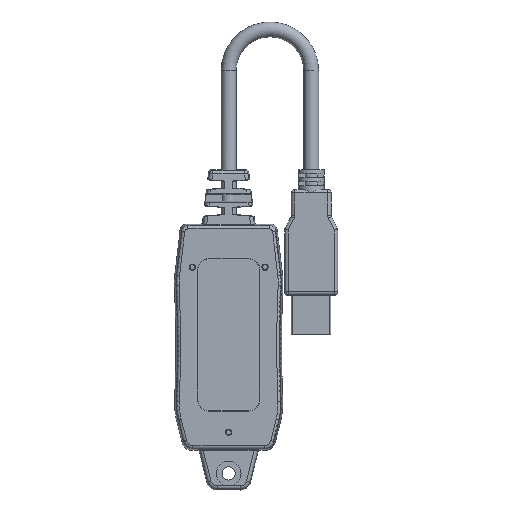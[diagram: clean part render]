
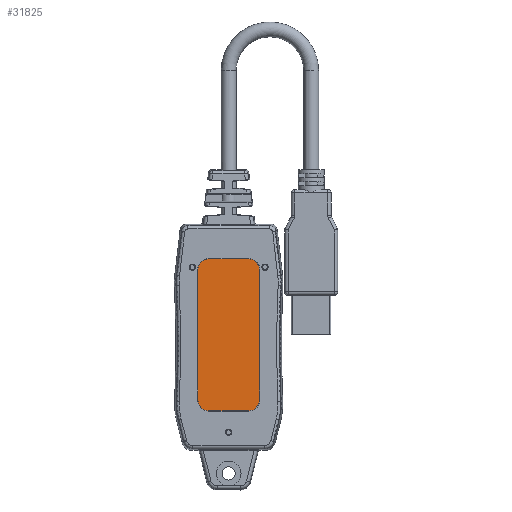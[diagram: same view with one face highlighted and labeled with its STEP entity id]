
A CAD part, front view. The second image highlights one B-rep face of the part: STEP entity #31825.
In plain terms, the highlighted planar face has unit normal (0, -1, 0).
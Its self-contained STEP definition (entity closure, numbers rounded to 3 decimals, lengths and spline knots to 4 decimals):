
#15770=DIRECTION('',(-1.,0.,0.));
#15771=VECTOR('',#15770,0.4764);
#15772=CARTESIAN_POINT('',(0.2382,-0.0866,
-0.7677));
#15773=LINE('',#15772,#15771);
#15791=DIRECTION('',(0.,0.,-1.));
#15792=VECTOR('',#15791,1.5551);
#15793=CARTESIAN_POINT('',(0.3661,-0.0866,
0.9154));
#15794=LINE('',#15793,#15792);
#15812=DIRECTION('',(1.,0.,0.));
#15813=VECTOR('',#15812,0.4764);
#15814=CARTESIAN_POINT('',(-0.2382,-0.0866,
1.0433));
#15815=LINE('',#15814,#15813);
#15833=DIRECTION('',(0.,0.,1.));
#15834=VECTOR('',#15833,1.5551);
#15835=CARTESIAN_POINT('',(-0.3661,-0.0866,
-0.6398));
#15836=LINE('',#15835,#15834);
#15840=CARTESIAN_POINT('',(0.2382,-0.0866,
-0.6398));
#15841=DIRECTION('',(0.,-1.,0.));
#15842=DIRECTION('',(0.,0.,-1.));
#15843=AXIS2_PLACEMENT_3D('',#15840,#15841,#15842);
#15848=CARTESIAN_POINT('',(-0.2382,-0.0866,
-0.6398));
#15849=DIRECTION('',(0.,-1.,0.));
#15850=DIRECTION('',(-1.,0.,0.));
#15851=AXIS2_PLACEMENT_3D('',#15848,#15849,#15850);
#15856=CARTESIAN_POINT('',(-0.2382,-0.0866,
0.9154));
#15857=DIRECTION('',(0.,-1.,0.));
#15858=DIRECTION('',(0.,0.,1.));
#15859=AXIS2_PLACEMENT_3D('',#15856,#15857,#15858);
#15864=CARTESIAN_POINT('',(0.2382,-0.0866,
0.9154));
#15865=DIRECTION('',(0.,-1.,0.));
#15866=DIRECTION('',(1.,0.,0.));
#15867=AXIS2_PLACEMENT_3D('',#15864,#15865,#15866);
#18259=CARTESIAN_POINT('',(0.2382,-0.0866,
-0.7677));
#18260=VERTEX_POINT('',#18259);
#18261=CARTESIAN_POINT('',(-0.2382,-0.0866,
-0.7677));
#18262=VERTEX_POINT('',#18261);
#18305=CARTESIAN_POINT('',(-0.3661,-0.0866,
-0.6398));
#18306=VERTEX_POINT('',#18305);
#18307=CARTESIAN_POINT('',(0.3661,-0.0866,
-0.6398));
#18308=VERTEX_POINT('',#18307);
#18364=CARTESIAN_POINT('',(-0.3661,-0.0866,
0.9154));
#18365=VERTEX_POINT('',#18364);
#18366=CARTESIAN_POINT('',(0.3661,-0.0866,
0.9154));
#18367=VERTEX_POINT('',#18366);
#18417=CARTESIAN_POINT('',(-0.2382,-0.0866,
1.0433));
#18418=VERTEX_POINT('',#18417);
#18419=CARTESIAN_POINT('',(0.2382,-0.0866,
1.0433));
#18420=VERTEX_POINT('',#18419);
#31810=CARTESIAN_POINT('',(0.5315,-0.0866,
-1.2402));
#31811=DIRECTION('',(0.,-1.,0.));
#31812=DIRECTION('',(-1.,0.,0.));
#31813=AXIS2_PLACEMENT_3D('',#31810,#31811,#31812);
#31814=PLANE('',#31813);
#31815=ORIENTED_EDGE('',*,*,#31750,.T.);
#31816=ORIENTED_EDGE('',*,*,#31736,.F.);
#31817=ORIENTED_EDGE('',*,*,#31722,.T.);
#31818=ORIENTED_EDGE('',*,*,#31708,.F.);
#31819=ORIENTED_EDGE('',*,*,#31805,.T.);
#31820=ORIENTED_EDGE('',*,*,#31792,.F.);
#31821=ORIENTED_EDGE('',*,*,#31778,.T.);
#31822=ORIENTED_EDGE('',*,*,#31764,.F.);
#31823=EDGE_LOOP('',(#31815,#31816,#31817,#31818,#31819,#31820,#31821,#31822));
#31824=FACE_OUTER_BOUND('',#31823,.F.);
#15844=CIRCLE('',#15843,0.128);
#15852=CIRCLE('',#15851,0.128);
#15860=CIRCLE('',#15859,0.128);
#15868=CIRCLE('',#15867,0.128);
#31708=EDGE_CURVE('',#18306,#18262,#15852,.T.);
#31722=EDGE_CURVE('',#18260,#18262,#15773,.T.);
#31736=EDGE_CURVE('',#18260,#18308,#15844,.T.);
#31750=EDGE_CURVE('',#18367,#18308,#15794,.T.);
#31764=EDGE_CURVE('',#18367,#18420,#15868,.T.);
#31778=EDGE_CURVE('',#18418,#18420,#15815,.T.);
#31792=EDGE_CURVE('',#18418,#18365,#15860,.T.);
#31805=EDGE_CURVE('',#18306,#18365,#15836,.T.);
#31825=ADVANCED_FACE('',(#31824),#31814,.T.);
